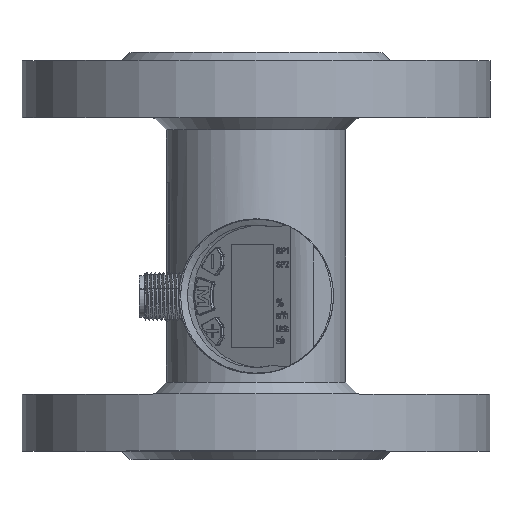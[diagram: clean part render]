
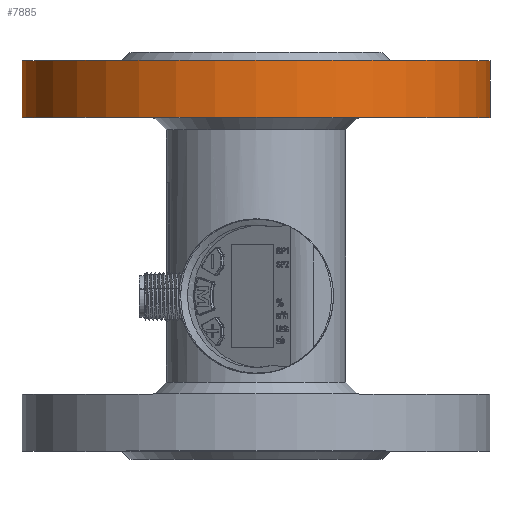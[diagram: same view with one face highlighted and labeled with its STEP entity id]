
A CAD part, top view. The second image highlights one B-rep face of the part: STEP entity #7885.
In plain terms, the highlighted cylindrical face has radius 57.5 mm (diameter 115 mm), a full revolution.
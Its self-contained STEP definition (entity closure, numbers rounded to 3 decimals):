
#6088=CYLINDRICAL_SURFACE('',#23488,57.5);
#7885=ADVANCED_FACE('',(#8761,#8762),#6088,.T.);
#8761=FACE_BOUND('',#10038,.T.);
#8762=FACE_BOUND('',#10039,.T.);
#10038=EDGE_LOOP('',(#15515));
#10039=EDGE_LOOP('',(#15516));
#10733=CIRCLE('',#23485,57.5);
#10734=CIRCLE('',#23487,57.5);
#15515=ORIENTED_EDGE('',*,*,#19708,.T.);
#15516=ORIENTED_EDGE('',*,*,#19707,.T.);
#17282=VERTEX_POINT('',#45379);
#17283=VERTEX_POINT('',#45382);
#19707=EDGE_CURVE('',#17282,#17282,#10733,.T.);
#19708=EDGE_CURVE('',#17283,#17283,#10734,.T.);
#23485=AXIS2_PLACEMENT_3D('',#45378,#27719,#27720);
#23487=AXIS2_PLACEMENT_3D('',#45381,#27723,#27724);
#23488=AXIS2_PLACEMENT_3D('',#45383,#27725,#27726);
#27719=DIRECTION('',(0.,-1.,0.));
#27720=DIRECTION('',(-1.,0.,0.));
#27723=DIRECTION('',(0.,1.,0.));
#27724=DIRECTION('',(-1.,0.,0.));
#27725=DIRECTION('',(0.,1.,0.));
#27726=DIRECTION('',(1.,0.,0.));
#45378=CARTESIAN_POINT('',(25.516,94.6,-117.224));
#45379=CARTESIAN_POINT('',(-31.984,94.6,-117.224));
#45381=CARTESIAN_POINT('',(25.516,80.6,-117.224));
#45382=CARTESIAN_POINT('',(-31.984,80.6,-117.224));
#45383=CARTESIAN_POINT('',(25.516,80.6,-117.224));
